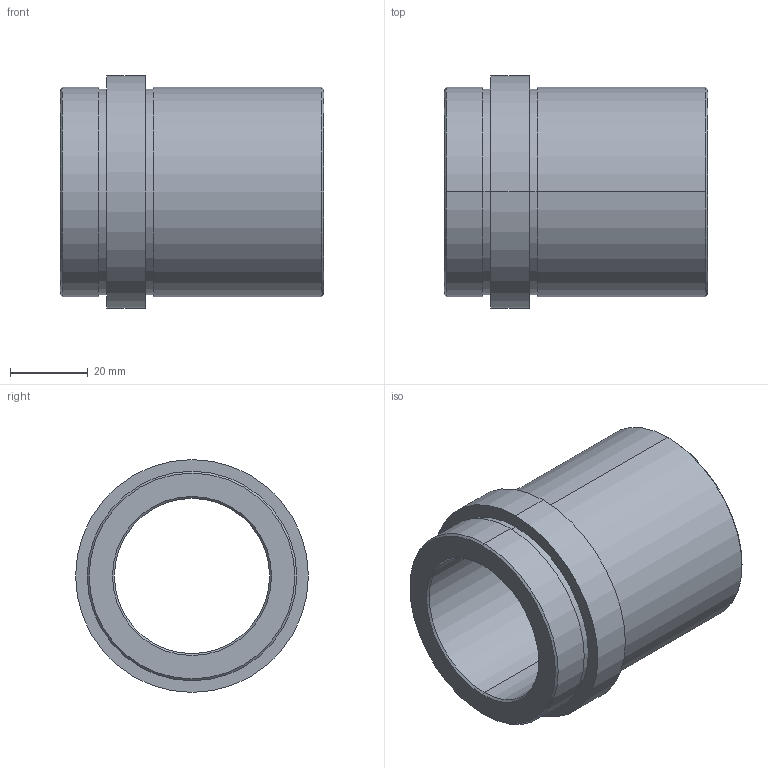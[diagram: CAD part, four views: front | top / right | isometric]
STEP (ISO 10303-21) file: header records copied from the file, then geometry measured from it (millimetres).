
FILE_DESCRIPTION (( 'STEP AP214' ), '1' );
FILE_NAME ('D21_40x56.step', '2011-12-29T19:15:28', ( 'Dell' ), ( '' ), 'SwSTEP 2.0', 'SolidWorks 2010', '' );
FILE_SCHEMA (( 'AUTOMOTIVE_DESIGN' ));
Length unit declared in the file: millimetre
Products named in the file (1): D21_40x56
Bounding box: 68 x 60 x 60 mm (x, y, z)
Volume: 75245.9 mm3; surface area: 23561.7 mm2
Topology: 1 solids, 1 shells, 26 faces, 52 edges, 32 vertices
Faces by surface type: cylinder 12, cone 8, plane 6
Entity records: 722 total; most frequent: DIRECTION 138, CARTESIAN_POINT 111, ORIENTED_EDGE 104, AXIS2_PLACEMENT_3D 59, EDGE_CURVE 52, EDGE_LOOP 32, VERTEX_POINT 32, CIRCLE 32
